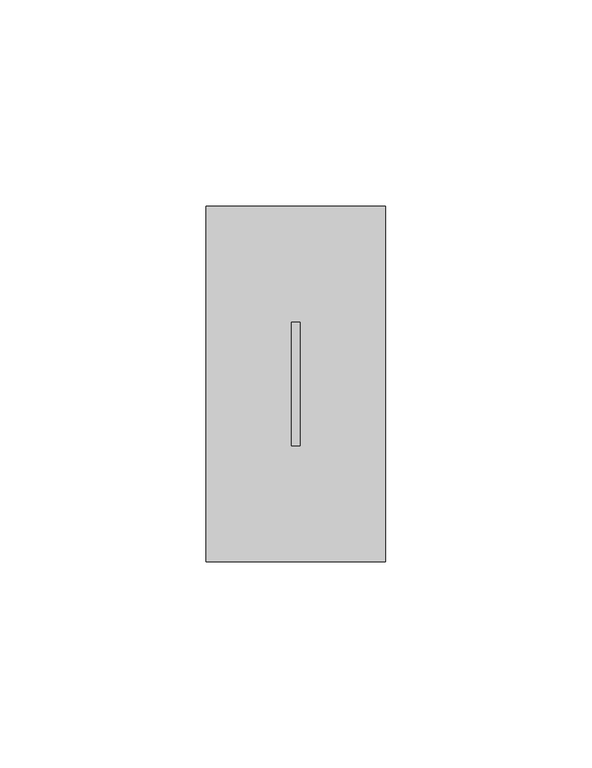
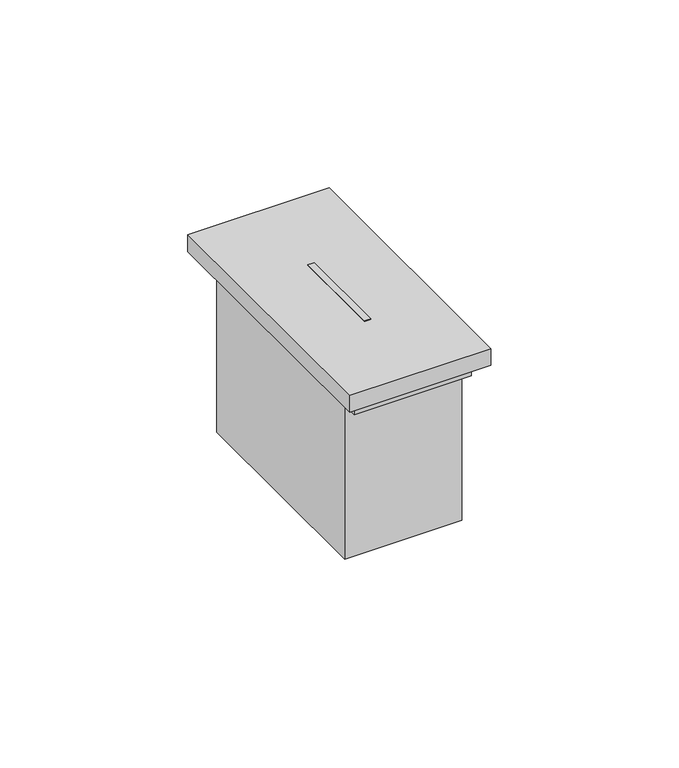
"""IFC4 building model written with IfcOpenShell, lengths in millimetres: proxy geometry, BT_LN_MHU-AttuatoreComando : Attuatore/Comando Tapparelle  - Art. K4672M2S - 2M - Colore nero."""

from ifc_helpers import new_model, si_unit, frame, origin, origin_with_axes, place, context, project, spatial, polyline, outline, extrude, source, transform, mapped, element, save


def electrical_fixtures_a492924f(model_context):
    return source(origin(), model_context, "Body", "SweptSolid", [
        extrude(outline(polyline([(-18.0, 39.0), (18.0, 39.0), (18.0, -39.0), (-18.0, -39.0), (-18.0, 39.0)])), frame((0.0, 0.0, 50.0), z_axis=(0.0, 0.0, 1.0), x_axis=(1.0, 0.0, 0.0)), (0.0, 0.0, 1.0), 4.5),
        extrude(outline(polyline([(-18.0, 34.0), (18.0, 34.0), (18.0, -34.0), (-18.0, -34.0), (-18.0, 34.0)])), origin_with_axes(), (0.0, 0.0, 1.0), 50.0),
        extrude(outline(polyline([(-1.0, 15.0), (1.0, 15.0), (1.0, -15.0), (-1.0, -15.0), (-1.0, 15.0)])), frame((0.0, 0.0, 54.5), z_axis=(0.0, 0.0, 1.0), x_axis=(1.0, 0.0, 0.0)), (0.0, 0.0, 1.0), 5.5),
        extrude(outline(polyline([(-21.7, -43.0), (-21.7, 43.0), (21.7, 43.0), (21.7, -43.0), (-21.7, -43.0)]), holes=[polyline([(-1.0, 15.0), (-1.0, -15.0), (1.0, -15.0), (1.0, 15.0), (-1.0, 15.0)])]), frame((0.0, 0.0, 54.5), z_axis=(0.0, 0.0, 1.0), x_axis=(1.0, 0.0, 0.0)), (0.0, 0.0, 1.0), 5.5),
    ])


if __name__ == "__main__":
    model = new_model("IFC4")
    model_context = context("Model", 3, world=origin())
    ifc_project = project(units=[si_unit("LENGTHUNIT", "METRE", prefix="MILLI")], contexts=[model_context])
    site = spatial("IfcSite", under=ifc_project)
    building = spatial("IfcBuilding", under=site)
    placement = place(None, origin())
    electrical_fixtures_shape = electrical_fixtures_a492924f(model_context)
    element("IfcBuildingElementProxy", 1, Name="BT_LN_MHU-AttuatoreComando : Attuatore/Comando Tapparelle  - Art. K4672M2S - 2M - Colore nero", ObjectType="BT_LN_MHU-AttuatoreComando : Attuatore/Comando Tapparelle  - Art. K4672M2S - 2M - Colore nero", at=placement, inside=building, context=model_context, shape_type="MappedRepresentation", body=[
        mapped(electrical_fixtures_shape, transform((0.0, 0.0, 0.0), x_axis=(1.0, 0.0, 0.0), y_axis=(0.0, 1.0, 0.0), z_axis=(0.0, 0.0, 1.0))),
    ])
    save(model, "model.ifc")
